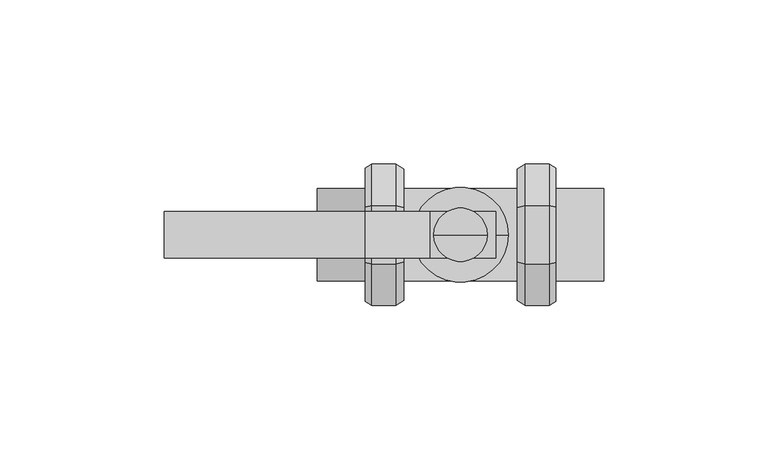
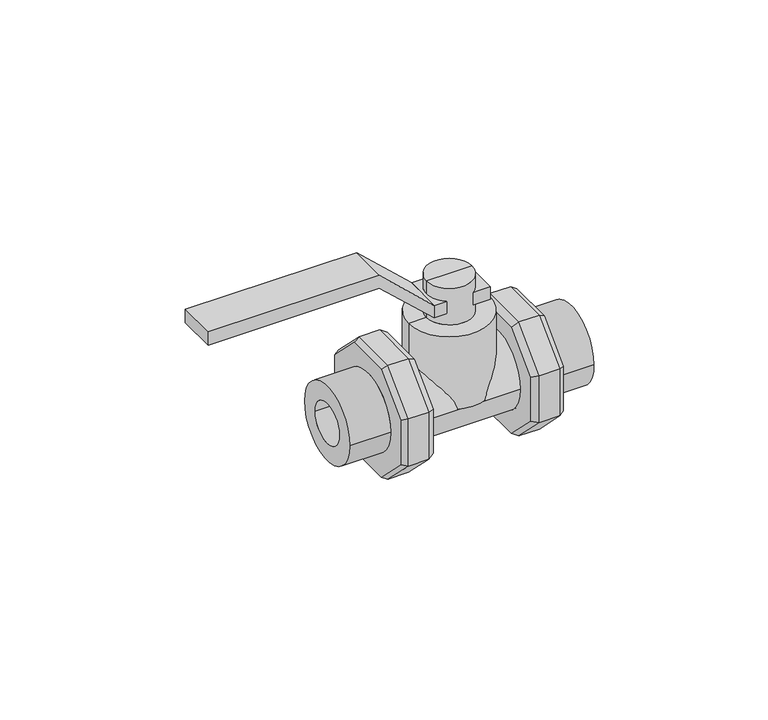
"""IFC4 building model written with IfcOpenShell, lengths in millimetres: valve geometry, EGB_VASEN_ PPR_Valvula de bola doble union WXR800 : Válvula de bola doble unión WXR800."""

from ifc_helpers import new_model, si_unit, point, frame, origin, origin_2d, place, context, project, spatial, polyline, circle_curve, trimmed, segment, composite_curve, outline, extrude, source, transform, mapped, element, save
from ifc_brep_helpers import plane_surface, cylinder_surface, revolved_surface, advanced_brep


def valve_fd6af9e7(model_context):
    return source(origin(), model_context, "Body", "SolidModel", [
        advanced_brep(
        [(27.0, 8.8848809, 21.45), (27.0, 21.45, 8.8848809), (19.6997357, 21.45, 8.8848809), (19.6997357, 8.8848809, 21.45), (19.6997357, -8.8848809, 21.45), (27.0, -8.8848809, 21.45), (27.0, -8.8848809, -21.45), (27.0, -21.45, -8.8848809), (19.6997357, -21.45, -8.8848809), (19.6997357, -8.8848809, -21.45), (19.6997357, 8.8848809, -21.45), (27.0, 8.8848809, -21.45), (19.6997357, -21.45, 8.8848809), (27.0, -21.45, 8.8848809), (19.6997357, 21.45, -8.8848809), (27.0, 21.45, -8.8848809), (29.0, 8.4065883, 20.2952995), (29.0, -8.4065883, 20.2952995), (29.0, -20.2952995, 8.4065883), (29.0, -20.2952995, -8.4065883), (29.0, -8.4065883, -20.2952995), (29.0, 8.4065883, -20.2952995), (29.0, 20.2952995, -8.4065883), (29.0, 20.2952995, 8.4065883), (29.0, 14.0, 0.0), (29.0, -14.0, 0.0), (17.2502459, 20.0357864, 8.2990945), (17.2502459, 20.0357864, -8.2990945), (17.2502459, 8.2990945, -20.0357864), (17.2502459, -8.2990945, -20.0357864), (17.2502459, -20.0357864, -8.2990945), (17.2502459, -20.0357864, 8.2990945), (17.2502459, -8.2990945, 20.0357864), (17.2502459, 8.2990945, 20.0357864), (17.2502459, -14.0, 0.0), (17.2502459, 14.0, 0.0)],
        [
            (0, 1),
            (1, 2),
            (2, 3),
            (3, 0),
            (3, 4),
            (4, 5),
            (5, 0),
            (6, 7),
            (7, 8),
            (8, 9),
            (9, 6),
            (9, 10),
            (10, 11),
            (11, 6),
            (4, 12),
            (12, 13),
            (13, 5),
            (12, 8),
            (7, 13),
            (10, 14),
            (14, 15),
            (15, 11),
            (16, 17),
            (17, 18),
            (18, 19),
            (19, 20),
            (20, 21),
            (21, 22),
            (22, 23),
            (23, 16),
            (24, 25, circle_curve(frame((29.0, 0.0, 0.0), z_axis=(-1.0, 0.0, 0.0), x_axis=(0.0, -1.0, 0.0)), 14.0)),
            (25, 24, circle_curve(frame((29.0, 0.0, 0.0), z_axis=(-1.0, 0.0, 0.0), x_axis=(0.0, -1.0, 0.0)), 14.0)),
            (14, 2),
            (1, 15),
            (26, 27),
            (27, 28),
            (28, 29),
            (29, 30),
            (30, 31),
            (31, 32),
            (32, 33),
            (33, 26),
            (34, 35, circle_curve(frame((17.2502459, 0.0, 0.0), z_axis=(1.0, 0.0, 0.0), x_axis=(0.0, -1.0, 0.0)), 14.0)),
            (35, 34, circle_curve(frame((17.2502459, 0.0, 0.0), z_axis=(1.0, 0.0, 0.0), x_axis=(0.0, -1.0, 0.0)), 14.0)),
            (2, 26),
            (33, 3),
            (23, 1),
            (0, 16),
            (32, 4),
            (5, 17),
            (8, 30),
            (29, 9),
            (19, 7),
            (6, 20),
            (28, 10),
            (11, 21),
            (31, 12),
            (13, 18),
            (27, 14),
            (15, 22),
            (25, 34),
            (35, 24),
        ],
        [
            plane_surface(frame((29.0, 21.45, 8.8848809), z_axis=(0.0, 0.7071067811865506, 0.7071067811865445), x_axis=(0.0, -0.7071067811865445, 0.7071067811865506))),
            plane_surface(frame((29.0, 8.8848809, 21.45), z_axis=(0.0, 0.0, 1.0), x_axis=(0.0, -1.0, 0.0))),
            plane_surface(frame((29.0, -21.45, -8.8848809), z_axis=(0.0, -0.707106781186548, -0.7071067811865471), x_axis=(0.0, 0.7071067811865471, -0.707106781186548))),
            plane_surface(frame((29.0, -8.8848809, -21.45), z_axis=(0.0, 0.0, -1.0), x_axis=(0.0, 1.0, 0.0))),
            plane_surface(frame((29.0, -8.8848809, 21.45), z_axis=(0.0, -0.7071067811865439, 0.7071067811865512), x_axis=(0.0, -0.7071067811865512, -0.7071067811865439))),
            plane_surface(frame((29.0, -21.45, 8.8848809), z_axis=(0.0, -1.0, 0.0), x_axis=(0.0, 0.0, -1.0))),
            plane_surface(frame((29.0, 8.8848809, -21.45), z_axis=(0.0, 0.7071067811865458, -0.7071067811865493), x_axis=(0.0, 0.7071067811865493, 0.7071067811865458))),
            plane_surface(frame((29.0, 0.0, 0.0), z_axis=(1.0, 0.0, 0.0), x_axis=(0.0, 0.0, 1.0))),
            plane_surface(frame((29.0, 21.45, -8.8848809), z_axis=(0.0, 1.0, 0.0), x_axis=(0.0, 0.0, 1.0))),
            plane_surface(frame((17.2502459, 21.45, -8.8848809), z_axis=(-1.0, 0.0, 0.0), x_axis=(0.0, 0.0, 1.0))),
            plane_surface(frame((17.2502459, 20.0357864, 8.2990945), z_axis=(-0.4999999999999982, 0.612372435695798, 0.6123724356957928), x_axis=(0.0, -0.7071067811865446, 0.7071067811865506))),
            plane_surface(frame((27.0, 21.45, 8.8848809), z_axis=(0.499999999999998, 0.612372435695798, 0.6123724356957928), x_axis=(0.0, -0.7071067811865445, 0.7071067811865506))),
            plane_surface(frame((17.2502459, 8.2990945, 20.0357864), z_axis=(-0.4999999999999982, 0.0, 0.8660254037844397), x_axis=(0.0, -1.0, 0.0))),
            plane_surface(frame((27.0, 8.8848809, 21.45), z_axis=(0.49999999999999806, 0.0, 0.8660254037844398), x_axis=(0.0, -1.0, 0.0))),
            plane_surface(frame((17.2502459, -20.0357864, -8.2990945), z_axis=(-0.49999999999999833, -0.6123724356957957, -0.6123724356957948), x_axis=(0.0, 0.707106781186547, -0.707106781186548))),
            plane_surface(frame((27.0, -21.45, -8.8848809), z_axis=(0.4999999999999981, -0.6123724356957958, -0.6123724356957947), x_axis=(0.0, 0.7071067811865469, -0.7071067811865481))),
            plane_surface(frame((17.2502459, -8.2990945, -20.0357864), z_axis=(-0.49999999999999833, 0.0, -0.8660254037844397), x_axis=(0.0, 1.0, 0.0))),
            plane_surface(frame((27.0, -8.8848809, -21.45), z_axis=(0.4999999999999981, 0.0, -0.8660254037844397), x_axis=(0.0, 1.0, 0.0))),
            plane_surface(frame((17.2502459, -8.2990945, 20.0357864), z_axis=(-0.4999999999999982, -0.6123724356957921, 0.6123724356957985), x_axis=(0.0, -0.7071067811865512, -0.7071067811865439))),
            plane_surface(frame((27.0, -8.8848809, 21.45), z_axis=(0.49999999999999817, -0.6123724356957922, 0.6123724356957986), x_axis=(0.0, -0.7071067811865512, -0.7071067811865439))),
            plane_surface(frame((17.2502459, -20.0357864, 8.2990945), z_axis=(-0.49999999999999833, -0.8660254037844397, 0.0), x_axis=(0.0, 0.0, -1.0))),
            plane_surface(frame((27.0, -21.45, 8.8848809), z_axis=(0.4999999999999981, -0.8660254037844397, 0.0), x_axis=(0.0, 0.0, -1.0))),
            plane_surface(frame((17.2502459, 8.2990945, -20.0357864), z_axis=(-0.49999999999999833, 0.6123724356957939, -0.6123724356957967), x_axis=(0.0, 0.7071067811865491, 0.7071067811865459))),
            plane_surface(frame((27.0, 8.8848809, -21.45), z_axis=(0.4999999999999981, 0.6123724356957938, -0.6123724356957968), x_axis=(0.0, 0.7071067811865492, 0.7071067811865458))),
            plane_surface(frame((17.2502459, 20.0357864, -8.2990945), z_axis=(-0.49999999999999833, 0.8660254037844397, 0.0), x_axis=(0.0, 0.0, 1.0))),
            plane_surface(frame((27.0, 21.45, -8.8848809), z_axis=(0.4999999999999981, 0.8660254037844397, 0.0), x_axis=(0.0, 0.0, 1.0))),
            revolved_surface(polyline([(17.2502459, -14.0, 0.0), (29.0, -14.0, 0.0)]), (29.0, 0.0, 0.0), (-1.0, 0.0, 0.0)),
        ],
        [
            (0, [[1, 2, 3, 4]]),
            (1, [[5, 6, 7, -4]]),
            (2, [[8, 9, 10, 11]]),
            (3, [[12, 13, 14, -11]]),
            (4, [[15, 16, 17, -6]]),
            (5, [[18, -9, 19, -16]]),
            (6, [[20, 21, 22, -13]]),
            (7, [[23, 24, 25, 26, 27, 28, 29, 30], [31, 32]]),
            (8, [[33, -2, 34, -21]]),
            (9, [[35, 36, 37, 38, 39, 40, 41, 42], [43, 44]]),
            (10, [[-3, 45, -42, 46]]),
            (11, [[-30, 47, -1, 48]]),
            (12, [[-41, 49, -5, -46]]),
            (13, [[-7, 50, -23, -48]]),
            (14, [[-10, 51, -38, 52]]),
            (15, [[-26, 53, -8, 54]]),
            (16, [[-37, 55, -12, -52]]),
            (17, [[-14, 56, -27, -54]]),
            (18, [[-40, 57, -15, -49]]),
            (19, [[-17, 58, -24, -50]]),
            (20, [[-18, -57, -39, -51]]),
            (21, [[-25, -58, -19, -53]]),
            (22, [[-36, 59, -20, -55]]),
            (23, [[-22, 60, -28, -56]]),
            (24, [[-33, -59, -35, -45]]),
            (25, [[-29, -60, -34, -47]]),
            (26, [[-32, 61, -44, 62]]),
            (26, [[-43, -61, -31, -62]]),
        ],
    ),
        advanced_brep(
        [(-27.0, 8.8848809, 21.45), (-19.6997357, 8.8848809, 21.45), (-19.6997357, 21.45, 8.8848809), (-27.0, 21.45, 8.8848809), (-27.0, -8.8848809, 21.45), (-19.6997357, -8.8848809, 21.45), (-27.0, -8.8848809, -21.45), (-19.6997357, -8.8848809, -21.45), (-19.6997357, -21.45, -8.8848809), (-27.0, -21.45, -8.8848809), (-27.0, 8.8848809, -21.45), (-19.6997357, 8.8848809, -21.45), (-27.0, -21.45, 8.8848809), (-19.6997357, -21.45, 8.8848809), (-27.0, 21.45, -8.8848809), (-19.6997357, 21.45, -8.8848809), (-29.0, 8.4065883, 20.2952995), (-29.0, 20.2952995, 8.4065883), (-29.0, 20.2952995, -8.4065883), (-29.0, 8.4065883, -20.2952995), (-29.0, -8.4065883, -20.2952995), (-29.0, -20.2952995, -8.4065883), (-29.0, -20.2952995, 8.4065883), (-29.0, -8.4065883, 20.2952995), (-29.0, 14.0, 0.0), (-29.0, -14.0, 0.0), (-17.2502459, 20.0357864, 8.2990945), (-17.2502459, 8.2990945, 20.0357864), (-17.2502459, -8.2990945, 20.0357864), (-17.2502459, -20.0357864, 8.2990945), (-17.2502459, -20.0357864, -8.2990945), (-17.2502459, -8.2990945, -20.0357864), (-17.2502459, 8.2990945, -20.0357864), (-17.2502459, 20.0357864, -8.2990945), (-17.2502459, -14.0, 0.0), (-17.2502459, 14.0, 0.0)],
        [
            (0, 1),
            (1, 2),
            (2, 3),
            (3, 0),
            (0, 4),
            (4, 5),
            (5, 1),
            (6, 7),
            (7, 8),
            (8, 9),
            (9, 6),
            (6, 10),
            (10, 11),
            (11, 7),
            (4, 12),
            (12, 13),
            (13, 5),
            (12, 9),
            (8, 13),
            (10, 14),
            (14, 15),
            (15, 11),
            (16, 17),
            (17, 18),
            (18, 19),
            (19, 20),
            (20, 21),
            (21, 22),
            (22, 23),
            (23, 16),
            (24, 25, circle_curve(frame((-29.0, 0.0, 0.0), z_axis=(1.0, 0.0, 0.0), x_axis=(0.0, -1.0, 0.0)), 14.0)),
            (25, 24, circle_curve(frame((-29.0, 0.0, 0.0), z_axis=(1.0, 0.0, 0.0), x_axis=(0.0, -1.0, 0.0)), 14.0)),
            (14, 3),
            (2, 15),
            (26, 27),
            (27, 28),
            (28, 29),
            (29, 30),
            (30, 31),
            (31, 32),
            (32, 33),
            (33, 26),
            (34, 35, circle_curve(frame((-17.2502459, 0.0, 0.0), z_axis=(-1.0, 0.0, 0.0), x_axis=(0.0, -1.0, 0.0)), 14.0)),
            (35, 34, circle_curve(frame((-17.2502459, 0.0, 0.0), z_axis=(-1.0, 0.0, 0.0), x_axis=(0.0, -1.0, 0.0)), 14.0)),
            (1, 27),
            (26, 2),
            (16, 0),
            (3, 17),
            (5, 28),
            (23, 4),
            (7, 31),
            (30, 8),
            (20, 6),
            (9, 21),
            (11, 32),
            (19, 10),
            (13, 29),
            (22, 12),
            (15, 33),
            (18, 14),
            (24, 35),
            (34, 25),
        ],
        [
            plane_surface(frame((-29.0, 21.45, 8.8848809), z_axis=(0.0, 0.7071067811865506, 0.7071067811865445), x_axis=(0.0, -0.7071067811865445, 0.7071067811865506))),
            plane_surface(frame((-29.0, 8.8848809, 21.45), z_axis=(0.0, 0.0, 1.0), x_axis=(0.0, -1.0, 0.0))),
            plane_surface(frame((-29.0, -21.45, -8.8848809), z_axis=(0.0, -0.707106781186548, -0.7071067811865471), x_axis=(0.0, 0.7071067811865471, -0.707106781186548))),
            plane_surface(frame((-29.0, -8.8848809, -21.45), z_axis=(0.0, 0.0, -1.0), x_axis=(0.0, 1.0, 0.0))),
            plane_surface(frame((-29.0, -8.8848809, 21.45), z_axis=(0.0, -0.7071067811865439, 0.7071067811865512), x_axis=(0.0, -0.7071067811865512, -0.7071067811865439))),
            plane_surface(frame((-29.0, -21.45, 8.8848809), z_axis=(0.0, -1.0, 0.0), x_axis=(0.0, 0.0, -1.0))),
            plane_surface(frame((-29.0, 8.8848809, -21.45), z_axis=(0.0, 0.7071067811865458, -0.7071067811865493), x_axis=(0.0, 0.7071067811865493, 0.7071067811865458))),
            plane_surface(frame((-29.0, 0.0, 0.0), z_axis=(-1.0, 0.0, 0.0), x_axis=(0.0, 0.0, 1.0))),
            plane_surface(frame((-29.0, 21.45, -8.8848809), z_axis=(0.0, 1.0, 0.0), x_axis=(0.0, 0.0, 1.0))),
            plane_surface(frame((-17.2502459, 21.45, -8.8848809), z_axis=(1.0, 0.0, 0.0), x_axis=(0.0, 0.0, 1.0))),
            plane_surface(frame((-17.2502459, 20.0357864, 8.2990945), z_axis=(0.4999999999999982, 0.612372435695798, 0.6123724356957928), x_axis=(0.0, -0.7071067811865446, 0.7071067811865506))),
            plane_surface(frame((-27.0, 21.45, 8.8848809), z_axis=(-0.499999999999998, 0.612372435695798, 0.6123724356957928), x_axis=(0.0, -0.7071067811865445, 0.7071067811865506))),
            plane_surface(frame((-17.2502459, 8.2990945, 20.0357864), z_axis=(0.4999999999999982, 0.0, 0.8660254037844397), x_axis=(0.0, -1.0, 0.0))),
            plane_surface(frame((-27.0, 8.8848809, 21.45), z_axis=(-0.49999999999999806, 0.0, 0.8660254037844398), x_axis=(0.0, -1.0, 0.0))),
            plane_surface(frame((-17.2502459, -20.0357864, -8.2990945), z_axis=(0.49999999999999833, -0.6123724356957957, -0.6123724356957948), x_axis=(0.0, 0.707106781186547, -0.707106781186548))),
            plane_surface(frame((-27.0, -21.45, -8.8848809), z_axis=(-0.4999999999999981, -0.6123724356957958, -0.6123724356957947), x_axis=(0.0, 0.7071067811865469, -0.7071067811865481))),
            plane_surface(frame((-17.2502459, -8.2990945, -20.0357864), z_axis=(0.49999999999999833, 0.0, -0.8660254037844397), x_axis=(0.0, 1.0, 0.0))),
            plane_surface(frame((-27.0, -8.8848809, -21.45), z_axis=(-0.4999999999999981, 0.0, -0.8660254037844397), x_axis=(0.0, 1.0, 0.0))),
            plane_surface(frame((-17.2502459, -8.2990945, 20.0357864), z_axis=(0.4999999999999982, -0.6123724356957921, 0.6123724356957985), x_axis=(0.0, -0.7071067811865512, -0.7071067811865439))),
            plane_surface(frame((-27.0, -8.8848809, 21.45), z_axis=(-0.49999999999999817, -0.6123724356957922, 0.6123724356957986), x_axis=(0.0, -0.7071067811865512, -0.7071067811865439))),
            plane_surface(frame((-17.2502459, -20.0357864, 8.2990945), z_axis=(0.49999999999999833, -0.8660254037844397, 0.0), x_axis=(0.0, 0.0, -1.0))),
            plane_surface(frame((-27.0, -21.45, 8.8848809), z_axis=(-0.4999999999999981, -0.8660254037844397, 0.0), x_axis=(0.0, 0.0, -1.0))),
            plane_surface(frame((-17.2502459, 8.2990945, -20.0357864), z_axis=(0.49999999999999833, 0.6123724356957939, -0.6123724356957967), x_axis=(0.0, 0.7071067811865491, 0.7071067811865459))),
            plane_surface(frame((-27.0, 8.8848809, -21.45), z_axis=(-0.4999999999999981, 0.6123724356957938, -0.6123724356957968), x_axis=(0.0, 0.7071067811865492, 0.7071067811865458))),
            plane_surface(frame((-17.2502459, 20.0357864, -8.2990945), z_axis=(0.49999999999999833, 0.8660254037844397, 0.0), x_axis=(0.0, 0.0, 1.0))),
            plane_surface(frame((-27.0, 21.45, -8.8848809), z_axis=(-0.4999999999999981, 0.8660254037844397, 0.0), x_axis=(0.0, 0.0, 1.0))),
            revolved_surface(polyline([(-17.2502459, -14.0, 0.0), (-29.0, -14.0, 0.0)]), (-29.0, 0.0, 0.0), (1.0, 0.0, 0.0)),
        ],
        [
            (0, [[1, 2, 3, 4]]),
            (1, [[-1, 5, 6, 7]]),
            (2, [[8, 9, 10, 11]]),
            (3, [[-8, 12, 13, 14]]),
            (4, [[-6, 15, 16, 17]]),
            (5, [[-16, 18, -10, 19]]),
            (6, [[-13, 20, 21, 22]]),
            (7, [[23, 24, 25, 26, 27, 28, 29, 30], [31, 32]]),
            (8, [[-21, 33, -3, 34]]),
            (9, [[35, 36, 37, 38, 39, 40, 41, 42], [43, 44]]),
            (10, [[45, -35, 46, -2]]),
            (11, [[47, -4, 48, -23]]),
            (12, [[-45, -7, 49, -36]]),
            (13, [[-47, -30, 50, -5]]),
            (14, [[51, -39, 52, -9]]),
            (15, [[53, -11, 54, -27]]),
            (16, [[-51, -14, 55, -40]]),
            (17, [[-53, -26, 56, -12]]),
            (18, [[-49, -17, 57, -37]]),
            (19, [[-50, -29, 58, -15]]),
            (20, [[-52, -38, -57, -19]]),
            (21, [[-54, -18, -58, -28]]),
            (22, [[-55, -22, 59, -41]]),
            (23, [[-56, -25, 60, -20]]),
            (24, [[-46, -42, -59, -34]]),
            (25, [[-48, -33, -60, -24]]),
            (26, [[61, -43, 62, -31]]),
            (26, [[-61, -32, -62, -44]]),
        ],
    ),
        advanced_brep(
        [(0.0, 0.0, 0.0), (-14.5, 0.0, 0.0), (14.5, 0.0, 0.0), (8.1120112, 0.0, 41.25), (-8.1120112, 0.0, 41.25), (0.0, 0.0, 41.25), (8.1120112, 0.0, 27.5), (-8.1120112, 0.0, 27.5), (14.5, 0.0, 27.5), (-14.5, 0.0, 27.5)],
        [
            (0, 1),
            (1, 2, circle_curve(frame((0.0, 0.0, 0.0), z_axis=(0.0, 0.0, -1.0), x_axis=(-1.0, 0.0, 0.0)), 14.5)),
            (2, 0),
            (2, 1, circle_curve(frame((0.0, 0.0, 0.0), z_axis=(0.0, 0.0, -1.0), x_axis=(-1.0, 0.0, 0.0)), 14.5)),
            (3, 4, circle_curve(frame((0.0, 0.0, 41.25), z_axis=(0.0, 0.0, 1.0), x_axis=(-1.0, 0.0, 0.0)), 8.1120112)),
            (4, 5),
            (5, 3),
            (4, 3, circle_curve(frame((0.0, 0.0, 41.25), z_axis=(0.0, 0.0, 1.0), x_axis=(-1.0, 0.0, 0.0)), 8.1120112)),
            (6, 7, circle_curve(frame((0.0, 0.0, 27.5), z_axis=(0.0, 0.0, 1.0), x_axis=(-1.0, 0.0, 0.0)), 8.1120112)),
            (7, 4),
            (3, 6),
            (7, 6, circle_curve(frame((0.0, 0.0, 27.5), z_axis=(0.0, 0.0, 1.0), x_axis=(-1.0, 0.0, 0.0)), 8.1120112)),
            (8, 9, circle_curve(frame((0.0, 0.0, 27.5), z_axis=(0.0, 0.0, 1.0), x_axis=(-1.0, 0.0, 0.0)), 14.5)),
            (9, 7),
            (6, 8),
            (9, 8, circle_curve(frame((0.0, 0.0, 27.5), z_axis=(0.0, 0.0, 1.0), x_axis=(-1.0, 0.0, 0.0)), 14.5)),
            (1, 9),
            (8, 2),
        ],
        [
            plane_surface(frame((0.0, 0.0, 0.0), z_axis=(0.0, 0.0, -1.0), x_axis=(-1.0, 0.0, 0.0))),
            plane_surface(frame((0.0, 0.0, 41.25), z_axis=(0.0, 0.0, 1.0), x_axis=(-1.0, 0.0, 0.0))),
            cylinder_surface(frame((0.0, 0.0, 66.25), z_axis=(0.0, 0.0, -1.0), x_axis=(-1.0, 0.0, 0.0)), 8.1120112),
            plane_surface(frame((0.0, 0.0, 27.5), z_axis=(0.0, 0.0, 1.0), x_axis=(-1.0, 0.0, 0.0))),
            cylinder_surface(frame((0.0, 0.0, 66.25), z_axis=(0.0, 0.0, -1.0), x_axis=(-1.0, 0.0, 0.0)), 14.5),
        ],
        [
            (0, [[1, 2, 3]]),
            (0, [[-3, 4, -1]]),
            (1, [[5, 6, 7]]),
            (1, [[8, -7, -6]]),
            (2, [[9, 10, -5, 11]]),
            (2, [[12, -11, -8, -10]]),
            (3, [[13, 14, -9, 15]]),
            (3, [[16, -15, -12, -14]]),
            (4, [[-2, 17, -13, 18]]),
            (4, [[-4, -18, -16, -17]]),
        ],
    ),
        extrude(outline(composite_curve([segment(trimmed(circle_curve(origin_2d(), 14.0), [point((-14.0, 0.0))], [point((14.0, 0.0))], False, "CARTESIAN"), True, "CONTINUOUS"), segment(trimmed(circle_curve(origin_2d(), 14.0), [point((14.0, 0.0))], [point((-14.0, 0.0))], False, "CARTESIAN"), True, "CONTINUOUS")], self_intersect=False)), frame((-18.2431733, 0.0, 0.0), z_axis=(1.0, 0.0, 0.0), x_axis=(0.0, 1.0, 0.0)), (0.0, 0.0, 1.0), 36.4863466),
        extrude(outline(composite_curve([segment(trimmed(circle_curve(origin_2d(), 14.0), [point((-14.0, 0.0))], [point((14.0, 0.0))], False, "CARTESIAN"), True, "CONTINUOUS"), segment(trimmed(circle_curve(origin_2d(), 14.0), [point((14.0, 0.0))], [point((-14.0, 0.0))], False, "CARTESIAN"), True, "CONTINUOUS")], self_intersect=False), holes=[composite_curve([segment(trimmed(circle_curve(origin_2d(), 7.5), [point((-7.5, 0.0))], [point((7.5, 0.0))], True, "CARTESIAN"), True, "CONTINUOUS"), segment(trimmed(circle_curve(origin_2d(), 7.5), [point((7.5, 0.0))], [point((-7.5, 0.0))], True, "CARTESIAN"), True, "CONTINUOUS")], self_intersect=False)]), frame((-43.5, 0.0, 0.0), z_axis=(1.0, 0.0, 0.0), x_axis=(0.0, 1.0, 0.0)), (0.0, 0.0, 1.0), 14.5),
        extrude(outline(composite_curve([segment(trimmed(circle_curve(origin_2d(), 14.0), [point((-14.0, 0.0))], [point((14.0, 0.0))], False, "CARTESIAN"), True, "CONTINUOUS"), segment(trimmed(circle_curve(origin_2d(), 14.0), [point((14.0, 0.0))], [point((-14.0, 0.0))], False, "CARTESIAN"), True, "CONTINUOUS")], self_intersect=False), holes=[composite_curve([segment(trimmed(circle_curve(origin_2d(), 7.5), [point((-7.5, 0.0))], [point((7.5, 0.0))], True, "CARTESIAN"), True, "CONTINUOUS"), segment(trimmed(circle_curve(origin_2d(), 7.5), [point((7.5, 0.0))], [point((-7.5, 0.0))], True, "CARTESIAN"), True, "CONTINUOUS")], self_intersect=False)]), frame((29.0, 0.0, 0.0), z_axis=(1.0, 0.0, 0.0), x_axis=(0.0, 1.0, 0.0)), (0.0, 0.0, 1.0), 14.5),
        extrude(outline(polyline([(36.6666667, -9.3417809), (55.0, -29.0), (55.0, -90.0), (50.0, -90.0), (50.0, -29.0), (32.0833333, -9.3417809), (36.6666667, -9.3417809)])), frame((0.0, -7.0, 0.0), z_axis=(0.0, 1.0, 0.0), x_axis=(0.0, 0.0, 1.0)), (0.0, 0.0, 1.0), 14.0),
        extrude(outline(polyline([(10.6582191, -7.0), (-9.3417809, -7.0), (-9.3417809, 7.0), (10.6582191, 7.0), (10.6582191, -7.0)])), frame((0.0, 0.0, 32.0833333), z_axis=(0.0, 0.0, 1.0), x_axis=(1.0, 0.0, 0.0)), (0.0, 0.0, 1.0), 4.5833333),
        extrude(outline(composite_curve([segment(trimmed(circle_curve(origin_2d(), 18.0), [point((-18.0, 0.0))], [point((18.0, 0.0))], False, "CARTESIAN"), True, "CONTINUOUS"), segment(trimmed(circle_curve(origin_2d(), 18.0), [point((18.0, 0.0))], [point((-18.0, 0.0))], False, "CARTESIAN"), True, "CONTINUOUS")], self_intersect=False)), frame((-29.0, 0.0, 0.0), z_axis=(1.0, 0.0, 0.0), x_axis=(0.0, 1.0, 0.0)), (0.0, 0.0, 1.0), 10.7568267),
        extrude(outline(composite_curve([segment(trimmed(circle_curve(origin_2d(), 18.0), [point((-18.0, 0.0))], [point((18.0, 0.0))], False, "CARTESIAN"), True, "CONTINUOUS"), segment(trimmed(circle_curve(origin_2d(), 18.0), [point((18.0, 0.0))], [point((-18.0, 0.0))], False, "CARTESIAN"), True, "CONTINUOUS")], self_intersect=False)), frame((18.2431733, 0.0, 0.0), z_axis=(1.0, 0.0, 0.0), x_axis=(0.0, 1.0, 0.0)), (0.0, 0.0, 1.0), 10.7568267),
    ])


if __name__ == "__main__":
    model = new_model("IFC4")
    model_context = context("Model", 3, world=origin())
    ifc_project = project(units=[si_unit("LENGTHUNIT", "METRE", prefix="MILLI")], contexts=[model_context])
    site = spatial("IfcSite", under=ifc_project)
    building = spatial("IfcBuilding", under=site)
    placement = place(None, origin())
    valve_shape = valve_fd6af9e7(model_context)
    element("IfcValve", 1, ObjectType="EGB_VASEN_ PPR_Valvula de bola doble union WXR800 : Válvula de bola doble unión WXR800", at=placement, inside=building, context=model_context, shape_type="MappedRepresentation", body=[
        mapped(valve_shape, transform((0.0, 0.0, 0.0), x_axis=(1.0, 0.0, 0.0), y_axis=(0.0, 1.0, 0.0), z_axis=(0.0, 0.0, 1.0))),
    ])
    save(model, "model.ifc")
